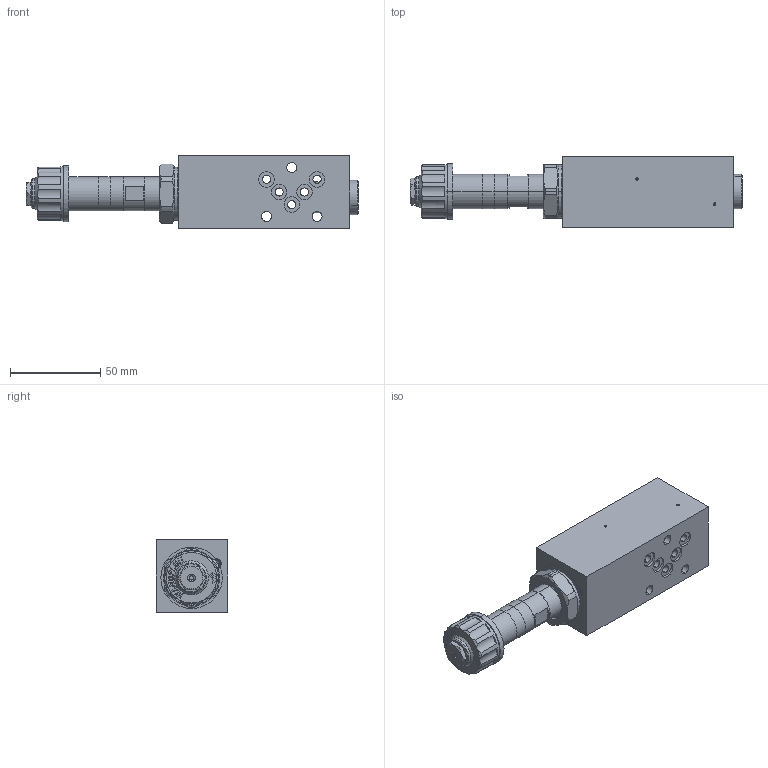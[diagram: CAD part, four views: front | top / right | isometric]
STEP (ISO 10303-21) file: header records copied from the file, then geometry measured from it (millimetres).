
FILE_DESCRIPTION (( 'STEP AP214' ), '1' );
FILE_NAME ('B.PSA04-P.STEP', '2017-03-23T14:54:46', ( '' ), ( '' ), 'SwSTEP 2.0', 'SolidWorks 2016', '' );
FILE_SCHEMA (( 'AUTOMOTIVE_DESIGN' ));
Length unit declared in the file: millimetre
Products named in the file (1): B.PSA04-P
Bounding box: 184 x 39.5 x 40 mm (x, y, z)
Volume: 178472.7 mm3; surface area: 33691.8 mm2
Topology: 2 solids, 5 shells, 405 faces, 1010 edges, 642 vertices
Faces by surface type: plane 193, cylinder 116, cone 68, bspline 16, torus 8, sphere 4
Entity records: 17397 total; most frequent: CARTESIAN_POINT 3606, DIRECTION 1995, ORIENTED_EDGE 1992, EDGE_CURVE 996, AXIS2_PLACEMENT_3D 723, VERTEX_POINT 642, VECTOR 549, LINE 549
